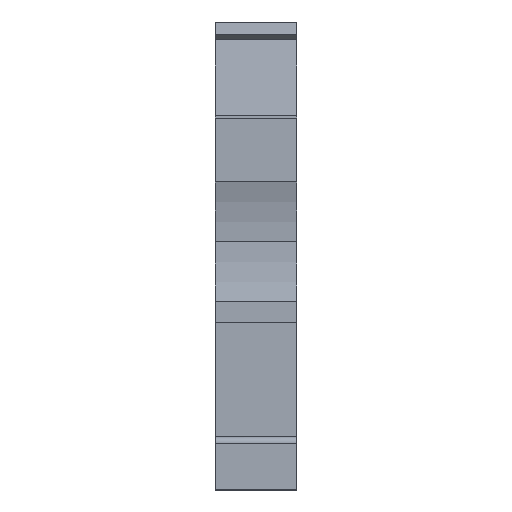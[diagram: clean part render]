
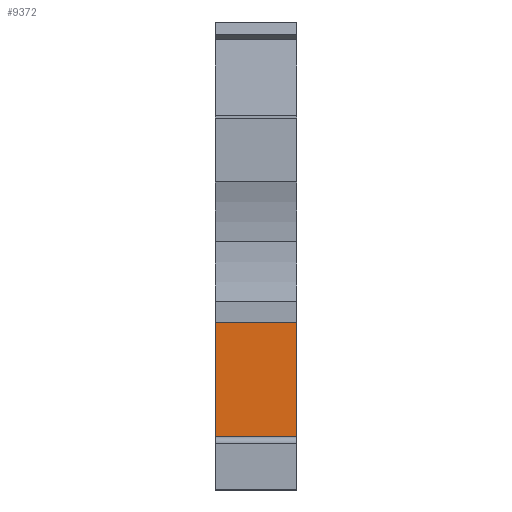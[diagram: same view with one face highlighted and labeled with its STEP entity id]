
A CAD part, front view. The second image highlights one B-rep face of the part: STEP entity #9372.
In plain terms, the highlighted planar face has unit normal (0, -1, 0).
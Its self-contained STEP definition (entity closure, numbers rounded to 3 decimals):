
#50=CARTESIAN_POINT('',(0.,3.,4.));
#51=VERTEX_POINT('',#50);
#58=CARTESIAN_POINT('',(0.,3.,12.6));
#59=VERTEX_POINT('',#58);
#60=CARTESIAN_POINT('',(0.,3.,4.));
#61=DIRECTION('',(0.,0.,1.));
#62=VECTOR('',#61,8.6);
#63=LINE('',#60,#62);
#64=EDGE_CURVE('',#51,#59,#63,.T.);
#1445=CARTESIAN_POINT('',(6.15,3.,12.6));
#1446=VERTEX_POINT('',#1445);
#1453=CARTESIAN_POINT('',(6.15,3.,1.5));
#1454=VERTEX_POINT('',#1453);
#1455=CARTESIAN_POINT('',(6.15,3.,1.5));
#1456=DIRECTION('',(0.,0.,1.));
#1457=VECTOR('',#1456,11.1);
#1458=LINE('',#1455,#1457);
#1459=EDGE_CURVE('',#1454,#1446,#1458,.T.);
#2026=CARTESIAN_POINT('',(1.1,3.,1.5));
#2027=VERTEX_POINT('',#2026);
#2034=CARTESIAN_POINT('',(1.1,3.,4.));
#2035=VERTEX_POINT('',#2034);
#2036=CARTESIAN_POINT('',(1.1,3.,1.5));
#2037=DIRECTION('',(-0.,-0.,1.));
#2038=VECTOR('',#2037,2.5);
#2039=LINE('',#2036,#2038);
#2040=EDGE_CURVE('',#2027,#2035,#2039,.T.);
#2075=CARTESIAN_POINT('',(1.1,3.,1.5));
#2076=DIRECTION('',(1.,-0.,-0.));
#2077=VECTOR('',#2076,5.05);
#2078=LINE('',#2075,#2077);
#2079=EDGE_CURVE('',#2027,#1454,#2078,.T.);
#2120=CARTESIAN_POINT('',(1.1,3.,4.));
#2121=DIRECTION('',(-1.,0.,0.));
#2122=VECTOR('',#2121,1.1);
#2123=LINE('',#2120,#2122);
#2124=EDGE_CURVE('',#2035,#51,#2123,.T.);
#9349=CARTESIAN_POINT('',(6.15,3.,12.6));
#9350=DIRECTION('',(-1.,0.,0.));
#9351=VECTOR('',#9350,6.15);
#9352=LINE('',#9349,#9351);
#9353=EDGE_CURVE('',#1446,#59,#9352,.T.);
#9359=CARTESIAN_POINT('',(6.15,3.,5.));
#9360=DIRECTION('',(0.,1.,0.));
#9361=DIRECTION('',(0.,0.,-1.));
#9362=AXIS2_PLACEMENT_3D('',#9359,#9360,#9361);
#9363=PLANE('',#9362);
#9364=ORIENTED_EDGE('',*,*,#1459,.T.);
#9365=ORIENTED_EDGE('',*,*,#9353,.T.);
#9366=ORIENTED_EDGE('',*,*,#64,.F.);
#9367=ORIENTED_EDGE('',*,*,#2124,.F.);
#9368=ORIENTED_EDGE('',*,*,#2040,.F.);
#9369=ORIENTED_EDGE('',*,*,#2079,.T.);
#9370=EDGE_LOOP('',(#9364,#9365,#9366,#9367,#9368,#9369));
#9371=FACE_BOUND('',#9370,.T.);
#9372=ADVANCED_FACE('',(#9371),#9363,.F.);
